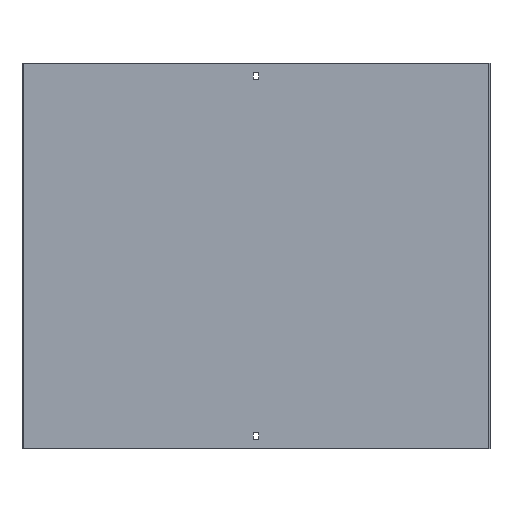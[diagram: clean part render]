
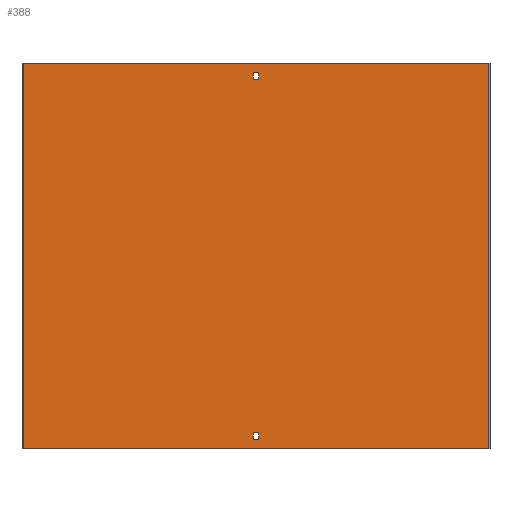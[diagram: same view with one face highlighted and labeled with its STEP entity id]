
A CAD part, front view. The second image highlights one B-rep face of the part: STEP entity #388.
In plain terms, the highlighted planar face has unit normal (0, -1, 0).
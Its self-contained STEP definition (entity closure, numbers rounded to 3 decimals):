
#5 = VECTOR ( 'NONE', #542, 1000. ) ;
#8 = CARTESIAN_POINT ( 'NONE',  ( -3.25, -1.5, 250. ) ) ;
#9 = ORIENTED_EDGE ( 'NONE', *, *, #198, .F. ) ;
#13 = DIRECTION ( 'NONE',  ( 0., 0., -1. ) ) ;
#20 = VERTEX_POINT ( 'NONE', #390 ) ;
#21 = ORIENTED_EDGE ( 'NONE', *, *, #249, .F. ) ;
#22 = EDGE_CURVE ( 'NONE', #219, #284, #574, .T. ) ;
#24 = AXIS2_PLACEMENT_3D ( 'NONE', #314, #310, #139 ) ;
#27 = CARTESIAN_POINT ( 'NONE',  ( -303.5, -1.5, 238. ) ) ;
#30 = CARTESIAN_POINT ( 'NONE',  ( -303.5, -1.5, 250. ) ) ;
#45 = VERTEX_POINT ( 'NONE', #579 ) ;
#55 = CARTESIAN_POINT ( 'NONE',  ( -303.5, -1.5, 229. ) ) ;
#57 = EDGE_LOOP ( 'NONE', ( #9, #21, #280, #271 ) ) ;
#70 = CARTESIAN_POINT ( 'NONE',  ( 3.25, -1.5, 229. ) ) ;
#74 = CARTESIAN_POINT ( 'NONE',  ( 3.25, -1.5, 250. ) ) ;
#81 = LINE ( 'NONE', #30, #117 ) ;
#82 = EDGE_CURVE ( 'NONE', #541, #45, #446, .T. ) ;
#88 = VERTEX_POINT ( 'NONE', #137 ) ;
#89 = CARTESIAN_POINT ( 'NONE',  ( -303.5, -1.5, -229. ) ) ;
#97 = CARTESIAN_POINT ( 'NONE',  ( -3.25, -1.5, 229. ) ) ;
#98 = CARTESIAN_POINT ( 'NONE',  ( 3.25, -1.5, 238. ) ) ;
#106 = EDGE_CURVE ( 'NONE', #284, #541, #440, .T. ) ;
#107 = VERTEX_POINT ( 'NONE', #583 ) ;
#108 = LINE ( 'NONE', #229, #293 ) ;
#117 = VECTOR ( 'NONE', #306, 1000. ) ;
#120 = CARTESIAN_POINT ( 'NONE',  ( 3.25, -1.5, -238. ) ) ;
#128 = EDGE_CURVE ( 'NONE', #338, #181, #585, .T. ) ;
#137 = CARTESIAN_POINT ( 'NONE',  ( 302., -1.5, -250. ) ) ;
#138 = FACE_OUTER_BOUND ( 'NONE', #57, .T. ) ;
#139 = DIRECTION ( 'NONE',  ( 0., 0., -1. ) ) ;
#147 = DIRECTION ( 'NONE',  ( 0., 0., 1. ) ) ;
#149 = EDGE_CURVE ( 'NONE', #150, #318, #371, .T. ) ;
#150 = VERTEX_POINT ( 'NONE', #224 ) ;
#156 = VECTOR ( 'NONE', #147, 1000. ) ;
#162 = CARTESIAN_POINT ( 'NONE',  ( 3.25, -1.5, -229. ) ) ;
#166 = VECTOR ( 'NONE', #502, 1000. ) ;
#176 = ORIENTED_EDGE ( 'NONE', *, *, #548, .F. ) ;
#181 = VERTEX_POINT ( 'NONE', #514 ) ;
#188 = CARTESIAN_POINT ( 'NONE',  ( -302., -1.5, -250. ) ) ;
#194 = DIRECTION ( 'NONE',  ( 0., 0., -1. ) ) ;
#197 = LINE ( 'NONE', #275, #498 ) ;
#198 = EDGE_CURVE ( 'NONE', #88, #241, #197, .T. ) ;
#201 = LINE ( 'NONE', #387, #156 ) ;
#206 = EDGE_LOOP ( 'NONE', ( #176, #434, #307, #286 ) ) ;
#212 = ORIENTED_EDGE ( 'NONE', *, *, #128, .T. ) ;
#215 = DIRECTION ( 'NONE',  ( 0., 0., 1. ) ) ;
#219 = VERTEX_POINT ( 'NONE', #97 ) ;
#224 = CARTESIAN_POINT ( 'NONE',  ( -3.25, -1.5, -229. ) ) ;
#229 = CARTESIAN_POINT ( 'NONE',  ( 302., -1.5, 250. ) ) ;
#241 = VERTEX_POINT ( 'NONE', #188 ) ;
#249 = EDGE_CURVE ( 'NONE', #107, #88, #108, .T. ) ;
#256 = DIRECTION ( 'NONE',  ( -1., 0., 0. ) ) ;
#259 = CARTESIAN_POINT ( 'NONE',  ( 3.25, -1.5, 250. ) ) ;
#271 = ORIENTED_EDGE ( 'NONE', *, *, #384, .T. ) ;
#275 = CARTESIAN_POINT ( 'NONE',  ( -303.5, -1.5, -250. ) ) ;
#276 = VECTOR ( 'NONE', #439, 1000. ) ;
#277 = EDGE_CURVE ( 'NONE', #181, #150, #201, .T. ) ;
#280 = ORIENTED_EDGE ( 'NONE', *, *, #375, .T. ) ;
#281 = ORIENTED_EDGE ( 'NONE', *, *, #313, .T. ) ;
#284 = VERTEX_POINT ( 'NONE', #70 ) ;
#286 = ORIENTED_EDGE ( 'NONE', *, *, #22, .F. ) ;
#289 = VECTOR ( 'NONE', #537, 1000. ) ;
#293 = VECTOR ( 'NONE', #13, 1000. ) ;
#295 = DIRECTION ( 'NONE',  ( 1., 0., 0. ) ) ;
#306 = DIRECTION ( 'NONE',  ( -1., 0., 0. ) ) ;
#307 = ORIENTED_EDGE ( 'NONE', *, *, #106, .F. ) ;
#310 = DIRECTION ( 'NONE',  ( 0., -1., 0. ) ) ;
#313 = EDGE_CURVE ( 'NONE', #318, #338, #394, .T. ) ;
#314 = CARTESIAN_POINT ( 'NONE',  ( -303.5, -1.5, 250. ) ) ;
#315 = VECTOR ( 'NONE', #256, 1000. ) ;
#318 = VERTEX_POINT ( 'NONE', #162 ) ;
#338 = VERTEX_POINT ( 'NONE', #120 ) ;
#354 = CARTESIAN_POINT ( 'NONE',  ( -302., -1.5, 250. ) ) ;
#359 = CARTESIAN_POINT ( 'NONE',  ( -303.5, -1.5, -238. ) ) ;
#371 = LINE ( 'NONE', #89, #166 ) ;
#375 = EDGE_CURVE ( 'NONE', #107, #20, #81, .T. ) ;
#384 = EDGE_CURVE ( 'NONE', #20, #241, #401, .T. ) ;
#387 = CARTESIAN_POINT ( 'NONE',  ( -3.25, -1.5, 250. ) ) ;
#388 = ADVANCED_FACE ( 'NONE', ( #494, #138, #549 ), #505, .T. ) ;
#390 = CARTESIAN_POINT ( 'NONE',  ( -302., -1.5, 250. ) ) ;
#394 = LINE ( 'NONE', #74, #276 ) ;
#401 = LINE ( 'NONE', #354, #289 ) ;
#418 = VECTOR ( 'NONE', #215, 1000. ) ;
#422 = LINE ( 'NONE', #8, #482 ) ;
#434 = ORIENTED_EDGE ( 'NONE', *, *, #82, .F. ) ;
#439 = DIRECTION ( 'NONE',  ( 0., 0., -1. ) ) ;
#440 = LINE ( 'NONE', #259, #418 ) ;
#446 = LINE ( 'NONE', #27, #315 ) ;
#482 = VECTOR ( 'NONE', #194, 1000. ) ;
#490 = VECTOR ( 'NONE', #295, 1000. ) ;
#494 = FACE_BOUND ( 'NONE', #206, .T. ) ;
#498 = VECTOR ( 'NONE', #511, 1000. ) ;
#502 = DIRECTION ( 'NONE',  ( 1., 0., 0. ) ) ;
#505 = PLANE ( 'NONE',  #24 ) ;
#511 = DIRECTION ( 'NONE',  ( -1., 0., 0. ) ) ;
#514 = CARTESIAN_POINT ( 'NONE',  ( -3.25, -1.5, -238. ) ) ;
#523 = ORIENTED_EDGE ( 'NONE', *, *, #277, .T. ) ;
#537 = DIRECTION ( 'NONE',  ( 0., 0., -1. ) ) ;
#541 = VERTEX_POINT ( 'NONE', #98 ) ;
#542 = DIRECTION ( 'NONE',  ( -1., 0., 0. ) ) ;
#548 = EDGE_CURVE ( 'NONE', #45, #219, #422, .T. ) ;
#549 = FACE_BOUND ( 'NONE', #575, .T. ) ;
#574 = LINE ( 'NONE', #55, #490 ) ;
#575 = EDGE_LOOP ( 'NONE', ( #212, #523, #590, #281 ) ) ;
#579 = CARTESIAN_POINT ( 'NONE',  ( -3.25, -1.5, 238. ) ) ;
#583 = CARTESIAN_POINT ( 'NONE',  ( 302., -1.5, 250. ) ) ;
#585 = LINE ( 'NONE', #359, #5 ) ;
#590 = ORIENTED_EDGE ( 'NONE', *, *, #149, .T. ) ;
